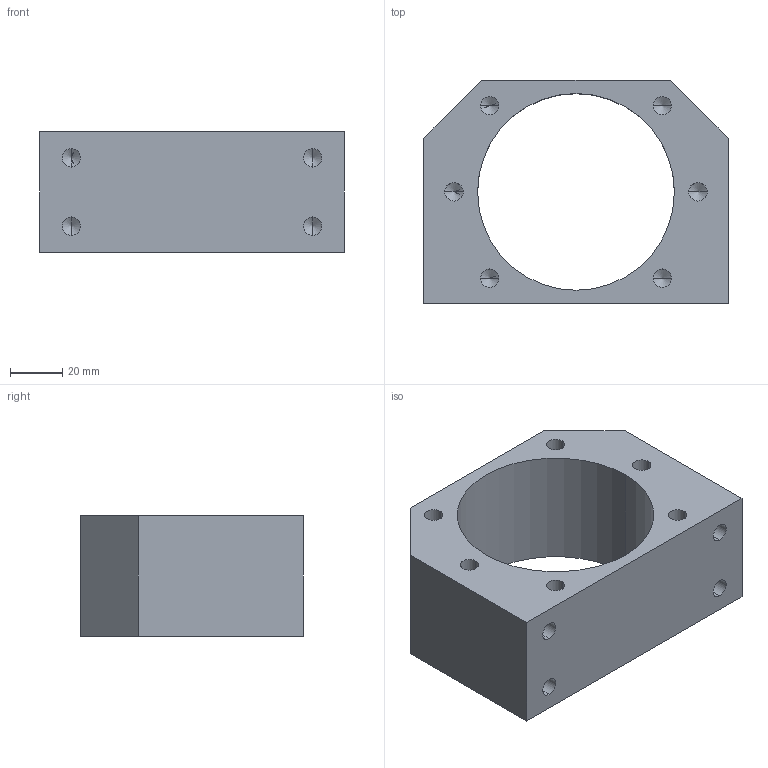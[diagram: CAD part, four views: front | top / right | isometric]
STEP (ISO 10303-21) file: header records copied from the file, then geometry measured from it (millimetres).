
FILE_DESCRIPTION (( 'STEP AP214' ), '1' );
FILE_NAME ('DSG5010.STEP', '2026-08-28T19:11:33', ( '' ), ( '' ), 'SwSTEP 2.0', 'SolidWorks 2019', '' );
FILE_SCHEMA (( 'AUTOMOTIVE_DESIGN' ));
Length unit declared in the file: millimetre
Products named in the file (1): DSG5010
Bounding box: 116 x 85 x 46 mm (x, y, z)
Volume: 220877.2 mm3; surface area: 42083.7 mm2
Topology: 1 solids, 1 shells, 128 faces, 328 edges, 202 vertices
Faces by surface type: plane 61, bspline 25, cylinder 22, cone 20
Entity records: 6708 total; most frequent: CARTESIAN_POINT 2752, ORIENTED_EDGE 616, DIRECTION 510, EDGE_CURVE 308, VECTOR 214, LINE 214, VERTEX_POINT 202, EDGE_LOOP 150
